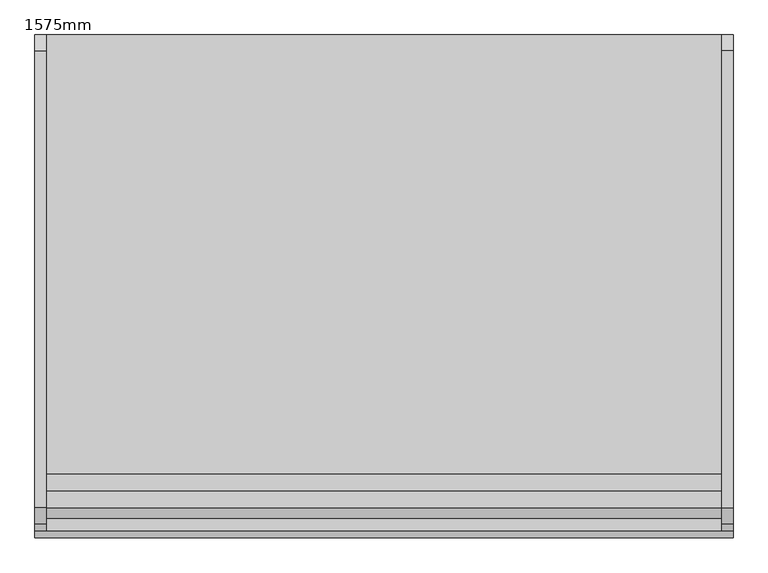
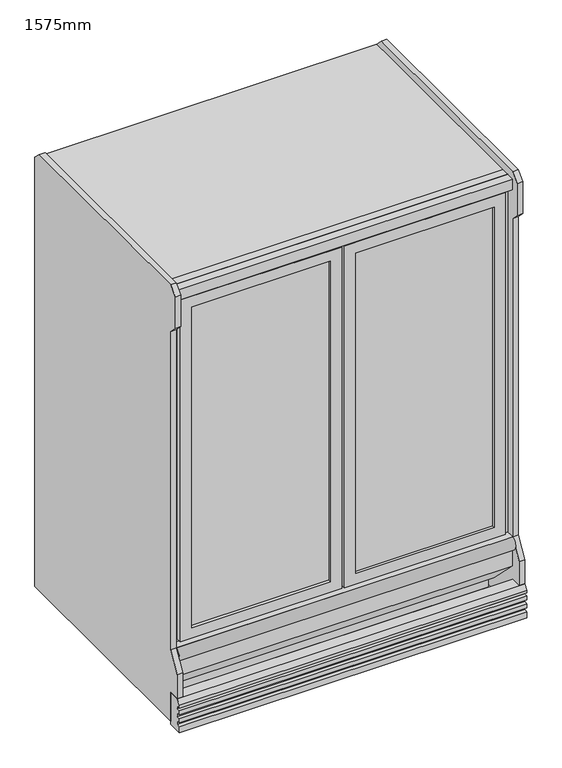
"""IFC4 building model written with IfcOpenShell, lengths in millimetres: proxy geometry, Congélateur - Vertical deux portes : 1575mm."""

from ifc_helpers import new_model, si_unit, point, frame, frame_2d, origin, origin_with_axes, place, context, project, spatial, polyline, circle_curve, trimmed, segment, composite_curve, outline, extrude, source, transform, mapped, element, save


def proxy_1575mm_f0578ba2(model_context):
    return source(origin(), model_context, "Body", "SweptSolid", [
        extrude(outline(polyline([(-670.71875, 25.4), (-1299.36875, 25.4), (-1299.36875, 31.75), (-670.71875, 31.75), (-670.71875, 25.4)])), frame((0.0, 0.0, 419.1), z_axis=(0.0, 0.0, 1.0), x_axis=(1.0, 0.0, 0.0)), (0.0, 0.0, 1.0), 1536.7),
        extrude(outline(polyline([(2006.6, -1350.16875), (368.3, -1350.16875), (368.3, -619.91875), (2006.6, -619.91875), (2006.6, -1350.16875)]), holes=[polyline([(1955.8, -1299.36875), (1955.8, -670.71875), (419.1, -670.71875), (419.1, -1299.36875), (1955.8, -1299.36875)])]), frame((0.0, 12.7, 0.0), z_axis=(0.0, 1.0, 0.0), x_axis=(0.0, 0.0, 1.0)), (0.0, 0.0, 1.0), 25.4),
        extrude(outline(polyline([(-1413.66875, 25.4), (-2042.31875, 25.4), (-2042.31875, 31.75), (-1413.66875, 31.75), (-1413.66875, 25.4)])), frame((0.0, 0.0, 419.1), z_axis=(0.0, 0.0, 1.0), x_axis=(1.0, 0.0, 0.0)), (0.0, 0.0, 1.0), 1536.7),
        extrude(outline(polyline([(2006.6, -1362.86875), (2006.6, -2093.11875), (368.3, -2093.11875), (368.3, -1362.86875), (2006.6, -1362.86875)]), holes=[polyline([(1955.8, -1413.66875), (419.1, -1413.66875), (419.1, -2042.31875), (1955.8, -2042.31875), (1955.8, -1413.66875)])]), frame((0.0, 12.7, 0.0), z_axis=(0.0, 1.0, 0.0), x_axis=(0.0, 0.0, 1.0)), (0.0, 0.0, 1.0), 25.4),
        extrude(outline(polyline([(2070.1, -594.51875), (2070.1, -2118.51875), (304.8, -2118.51875), (304.8, -594.51875), (2070.1, -594.51875)]), holes=[polyline([(1993.9, -1375.56875), (381.0, -1375.56875), (381.0, -2080.41875), (1993.9, -2080.41875), (1993.9, -1375.56875)]), polyline([(1993.9, -632.61875), (381.0, -632.61875), (381.0, -1337.46875), (1993.9, -1337.46875), (1993.9, -632.61875)])]), frame((0.0, 38.1, 0.0), z_axis=(0.0, 1.0, 0.0), x_axis=(0.0, 0.0, 1.0)), (0.0, 0.0, 1.0), 38.1),
        extrude(outline(composite_curve([segment(trimmed(circle_curve(frame_2d((9.5885861, 324.3228586)), 32.7139199), [point((0.0, 293.0457172))], [point((0.0, 355.6))], False, "CARTESIAN"), True, "CONTINUOUS"), segment(polyline([(0.0, 355.6), (0.0, 293.0457172)]), True, "CONTINUOUS")], self_intersect=False)), frame((-2118.51875, 0.0, 0.0), z_axis=(1.0, 0.0, 0.0), x_axis=(0.0, 1.0, 0.0)), (0.0, 0.0, 1.0), 1524.0),
        extrude(outline(polyline([(-50.8, 152.4), (0.0, 152.4), (0.0, 0.0), (-67.5825973, 0.0), (-67.5825973, 28.6219057), (-50.8, 28.6219057), (-50.8, 47.6719057), (-67.5825973, 47.6719057), (-67.5825973, 66.7219057), (-50.8, 66.7219057), (-50.8, 85.7719057), (-67.5825973, 85.7719057), (-67.5825973, 104.8219057), (-50.8, 104.8219057), (-50.8, 117.5219057), (-67.5825973, 117.5219057), (-67.5825973, 131.7872166), (-50.8, 152.4)])), frame((-2143.91875, 0.0, 0.0), z_axis=(1.0, 0.0, 0.0), x_axis=(0.0, 1.0, 0.0)), (0.0, 0.0, 1.0), 1574.8),
        extrude(outline(polyline([(1030.8789755, 2106.0210245), (1066.8, 2070.1), (1066.8, 12.7), (0.0, 12.7), (0.0, 152.4), (-50.8, 152.4), (-50.8, 267.611819), (0.0, 355.6), (0.0, 1881.7789755), (-35.9210245, 1917.7), (-35.9210245, 2070.1), (0.0, 2106.0210245), (1030.8789755, 2106.0210245)])), frame((-594.51875, 0.0, 0.0), z_axis=(1.0, 0.0, 0.0), x_axis=(0.0, 1.0, 0.0)), (0.0, 0.0, 1.0), 25.4),
        extrude(outline(polyline([(1030.8789755, 2106.0210245), (1066.8, 2070.1), (1066.8, 12.7), (0.0, 12.7), (0.0, 152.4), (-50.8, 152.4), (-50.8, 267.611819), (0.0, 355.6), (0.0, 1881.7789755), (-35.9210245, 1917.7), (-35.9210245, 2070.1), (0.0, 2106.0210245), (1030.8789755, 2106.0210245)])), frame((-2143.91875, 0.0, 0.0), z_axis=(1.0, 0.0, 0.0), x_axis=(0.0, 1.0, 0.0)), (0.0, 0.0, 1.0), 25.4),
        extrude(outline(polyline([(-2105.81875, 292.1), (-2105.81875, 901.7), (-607.21875, 901.7), (-607.21875, 292.1), (-2105.81875, 292.1)])), frame((0.0, 0.0, 1727.2), z_axis=(0.0, 0.0, 1.0), x_axis=(1.0, 0.0, 0.0)), (0.0, 0.0, 1.0), 9.525),
        extrude(outline(polyline([(-2105.81875, 292.1), (-2105.81875, 901.7), (-607.21875, 901.7), (-607.21875, 292.1), (-2105.81875, 292.1)])), frame((0.0, 0.0, 1435.1), z_axis=(0.0, 0.0, 1.0), x_axis=(1.0, 0.0, 0.0)), (0.0, 0.0, 1.0), 9.525),
        extrude(outline(polyline([(-2105.81875, 292.1), (-2105.81875, 901.7), (-607.21875, 901.7), (-607.21875, 292.1), (-2105.81875, 292.1)])), frame((0.0, 0.0, 1143.0), z_axis=(0.0, 0.0, 1.0), x_axis=(1.0, 0.0, 0.0)), (0.0, 0.0, 1.0), 9.525),
        extrude(outline(polyline([(-2105.81875, 292.1), (-2105.81875, 901.7), (-607.21875, 901.7), (-607.21875, 292.1), (-2105.81875, 292.1)])), frame((0.0, 0.0, 850.9), z_axis=(0.0, 0.0, 1.0), x_axis=(1.0, 0.0, 0.0)), (0.0, 0.0, 1.0), 9.525),
        extrude(outline(polyline([(-2105.81875, 292.1), (-2105.81875, 901.7), (-607.21875, 901.7), (-607.21875, 292.1), (-2105.81875, 292.1)])), frame((0.0, 0.0, 558.8), z_axis=(0.0, 0.0, 1.0), x_axis=(1.0, 0.0, 0.0)), (0.0, 0.0, 1.0), 9.525),
        extrude(outline(polyline([(901.7, 2032.0), (914.4, 2032.0), (914.4, 304.8), (901.7, 304.8), (901.7, 520.7), (795.3138575, 520.7), (776.2638575, 539.75), (402.1549695, 539.75), (393.2718086, 558.8), (901.7, 558.8), (901.7, 812.8), (790.5820534, 812.8), (771.5320534, 831.85), (402.1549695, 831.85), (393.2718086, 850.9), (901.7, 850.9), (901.7, 1104.9), (785.8502493, 1104.9), (766.8002493, 1123.95), (313.6831609, 1123.95), (304.8, 1143.0), (901.7, 1143.0), (901.7, 1397.0), (790.5820534, 1397.0), (771.5320534, 1416.05), (313.6831609, 1416.05), (304.8, 1435.1), (901.7, 1435.1), (901.7, 1689.1), (785.8502493, 1689.1), (766.8002493, 1708.15), (317.5, 1708.15), (304.8, 1727.2), (901.7, 1727.2), (901.7, 2032.0)])), frame((-1362.4781537, 0.0, 0.0), z_axis=(1.0, 0.0, 0.0), x_axis=(0.0, 1.0, 0.0)), (0.0, 0.0, 1.0), 11.9188073),
        extrude(outline(polyline([(901.7, 2032.0), (914.4, 2032.0), (914.4, 304.8), (901.7, 304.8), (901.7, 520.7), (795.3138575, 520.7), (776.2638575, 539.75), (402.1549695, 539.75), (393.2718086, 558.8), (901.7, 558.8), (901.7, 812.8), (790.5820534, 812.8), (771.5320534, 831.85), (402.1549695, 831.85), (393.2718086, 850.9), (901.7, 850.9), (901.7, 1104.9), (785.8502493, 1104.9), (766.8002493, 1123.95), (313.6831609, 1123.95), (304.8, 1143.0), (901.7, 1143.0), (901.7, 1397.0), (790.5820534, 1397.0), (771.5320534, 1416.05), (313.6831609, 1416.05), (304.8, 1435.1), (901.7, 1435.1), (901.7, 1689.1), (785.8502493, 1689.1), (766.8002493, 1708.15), (317.5, 1708.15), (304.8, 1727.2), (901.7, 1727.2), (901.7, 2032.0)])), frame((-619.91875, 0.0, 0.0), z_axis=(1.0, 0.0, 0.0), x_axis=(0.0, 1.0, 0.0)), (0.0, 0.0, 1.0), 12.7),
        extrude(outline(polyline([(901.7, 2032.0), (914.4, 2032.0), (914.4, 304.8), (901.7, 304.8), (901.7, 520.7), (795.3138575, 520.7), (776.2638575, 539.75), (402.1549695, 539.75), (393.2718086, 558.8), (901.7, 558.8), (901.7, 812.8), (790.5820534, 812.8), (771.5320534, 831.85), (402.1549695, 831.85), (393.2718086, 850.9), (901.7, 850.9), (901.7, 1104.9), (785.8502493, 1104.9), (766.8002493, 1123.95), (313.6831609, 1123.95), (304.8, 1143.0), (901.7, 1143.0), (901.7, 1397.0), (790.5820534, 1397.0), (771.5320534, 1416.05), (313.6831609, 1416.05), (304.8, 1435.1), (901.7, 1435.1), (901.7, 1689.1), (785.8502493, 1689.1), (766.8002493, 1708.15), (317.5, 1708.15), (304.8, 1727.2), (901.7, 1727.2), (901.7, 2032.0)])), frame((-2105.81875, 0.0, 0.0), z_axis=(1.0, 0.0, 0.0), x_axis=(0.0, 1.0, 0.0)), (0.0, 0.0, 1.0), 12.7),
        extrude(outline(polyline([(0.0, 2070.1), (1066.8, 2070.1), (1066.8, 76.2), (140.3569315, 76.2), (0.0, 216.5569315), (0.0, 355.6), (38.1, 355.6), (38.1, 304.8), (914.4, 304.8), (914.4, 2032.0), (152.4, 2032.0), (152.4, 2019.3), (0.0, 2019.3), (0.0, 2070.1)])), frame((-2118.51875, 0.0, 0.0), z_axis=(1.0, 0.0, 0.0), x_axis=(0.0, 1.0, 0.0)), (0.0, 0.0, 1.0), 1524.0),
        extrude(outline(polyline([(-594.51875, 1047.75), (-594.51875, 190.5), (-2118.51875, 190.5), (-2118.51875, 1047.75), (-594.51875, 1047.75)])), origin_with_axes(), (0.0, 0.0, 1.0), 76.2),
    ])


if __name__ == "__main__":
    model = new_model("IFC4")
    model_context = context("Model", 3, world=origin())
    ifc_project = project(units=[si_unit("LENGTHUNIT", "METRE", prefix="MILLI")], contexts=[model_context])
    site = spatial("IfcSite", under=ifc_project)
    building = spatial("IfcBuilding", under=site)
    placement = place(None, origin())
    proxy_1575mm_shape = proxy_1575mm_f0578ba2(model_context)
    element("IfcBuildingElementProxy", 1, Name="Congélateur - Vertical deux portes : 1575mm", ObjectType="Congélateur - Vertical deux portes : 1575mm", at=placement, inside=building, context=model_context, shape_type="MappedRepresentation", body=[
        mapped(proxy_1575mm_shape, transform((0.0, 0.0, 0.0), x_axis=(1.0, 0.0, 0.0), y_axis=(0.0, 1.0, 0.0), z_axis=(0.0, 0.0, 1.0))),
    ])
    save(model, "model.ifc")
